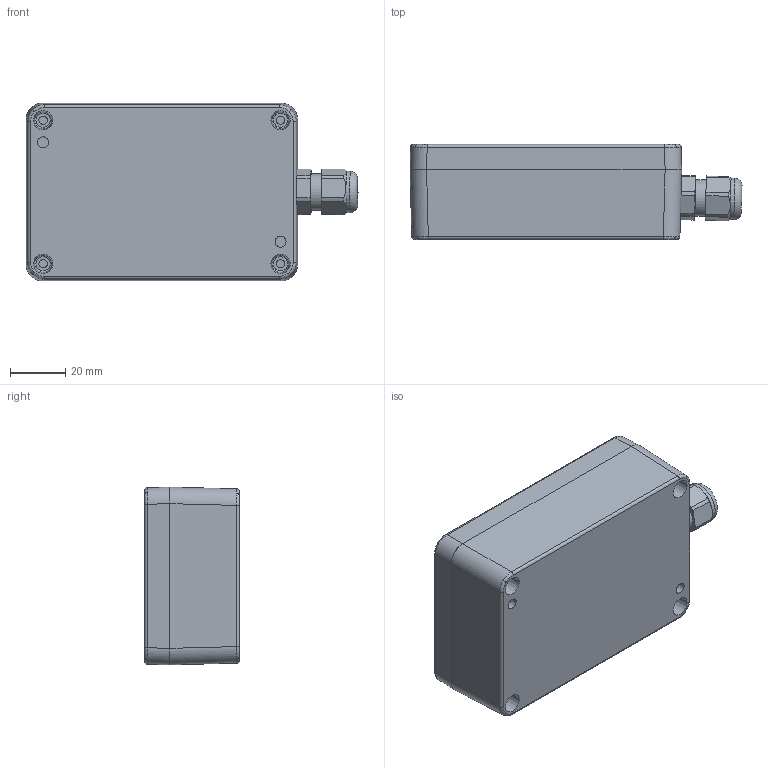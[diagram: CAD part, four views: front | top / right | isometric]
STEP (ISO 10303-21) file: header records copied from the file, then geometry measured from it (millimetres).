
FILE_DESCRIPTION(/* description */ ('','CAx-IF Rec.Pracs.---Representation and Presentation of Product Manufacturing Information (PMI)---4.0---2014-10-13'),/* implementation_level */ '2;1');
FILE_NAME(/* name */ 'C:\Releases\Veronte_BEC\3d_DCDC60W\R12F0-101010\R12F0-101010_website\3d_DCDC60W - R24F0 - 101010.stp',/* time_stamp */ '2023-11-14T16:48:10+01:00',/* author */ ('jbs3'),/* organization */ (''),/* preprocessor_version */ 'ST-DEVELOPER v17',/* originating_system */ 'Autodesk Inventor 2018',/* authorisation */ '');
FILE_SCHEMA (('AP242_MANAGED_MODEL_BASED_3D_ENGINEERING_MIM_LF { 1 0 10303 442 1 1 4 }'));
Products named in the file (1): 3d_DCDC60W - R24F0 - dummy
Bounding box: 120.26 x 34.4 x 64.4 mm (x, y, z)
Volume: 123976.4 mm3; surface area: 82402.4 mm2
Topology: 10 solids, 10 shells, 1913 faces, 5016 edges, 3247 vertices
Faces by surface type: bspline 710, plane 607, cylinder 232, cone 199, torus 165
Full cylindrical faces by diameter (mm): 3.42 x6, 3.5 x1, 3.82 x6, 10.38 x1, 12 x1, 12.1 x1, 13.2 x1, 15 x1
Entity records: 97533 total; most frequent: CARTESIAN_POINT 52469, ORIENTED_EDGE 10000, DIRECTION 7104, EDGE_CURVE 5000, VERTEX_POINT 3247, AXIS2_PLACEMENT_3D 2383, LINE 2346, VECTOR 2346
